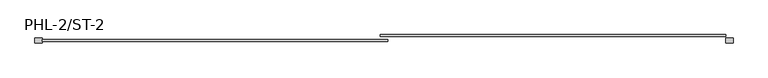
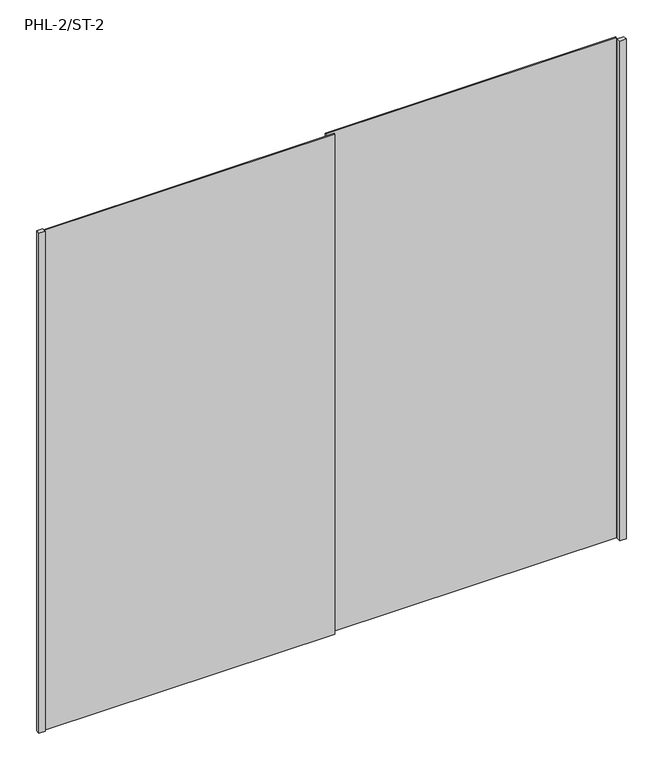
"""IFC4 building model written with IfcOpenShell, lengths in millimetres: furniture geometry, Puerta Closet corre 2 hojas : PHL-2/ST-2."""

from ifc_helpers import new_model, si_unit, origin, origin_with_axes, place, context, project, spatial, polyline, outline, extrude, source, transform, mapped, element, save


def phl_2_st_2_c3c2574e(model_context):
    return source(origin(), model_context, "Body", "SweptSolid", [
        extrude(outline(polyline([(860.0, 80.0), (830.0, 80.0), (830.0, 100.0), (860.0, 100.0), (860.0, 80.0)])), origin_with_axes(), (0.0, 0.0, 1.0), 2520.0),
        extrude(outline(polyline([(830.0, 106.6666667), (-555.0, 106.6666667), (-555.0, 113.3333333), (830.0, 113.3333333), (830.0, 106.6666667)])), origin_with_axes(), (0.0, 0.0, 1.0), 2520.0),
        extrude(outline(polyline([(-525.0, 86.6666667), (-1910.0, 86.6666667), (-1910.0, 93.3333333), (-525.0, 93.3333333), (-525.0, 86.6666667)])), origin_with_axes(), (0.0, 0.0, 1.0), 2520.0),
        extrude(outline(polyline([(-1940.0, 80.0), (-1940.0, 100.0), (-1910.0, 100.0), (-1910.0, 80.0), (-1940.0, 80.0)])), origin_with_axes(), (0.0, 0.0, 1.0), 2520.0),
    ])


if __name__ == "__main__":
    model = new_model("IFC4")
    model_context = context("Model", 3, world=origin())
    ifc_project = project(units=[si_unit("LENGTHUNIT", "METRE", prefix="MILLI")], contexts=[model_context])
    site = spatial("IfcSite", under=ifc_project)
    building = spatial("IfcBuilding", under=site)
    placement = place(None, origin())
    phl_2_st_2_shape = phl_2_st_2_c3c2574e(model_context)
    element("IfcFurniture", 1, ObjectType="Puerta Closet corre 2 hojas : PHL-2/ST-2", at=placement, inside=building, context=model_context, shape_type="MappedRepresentation", body=[
        mapped(phl_2_st_2_shape, transform((0.0, 0.0, 0.0), x_axis=(1.0, 0.0, 0.0), y_axis=(0.0, 1.0, 0.0), z_axis=(0.0, 0.0, 1.0))),
    ])
    save(model, "model.ifc")
